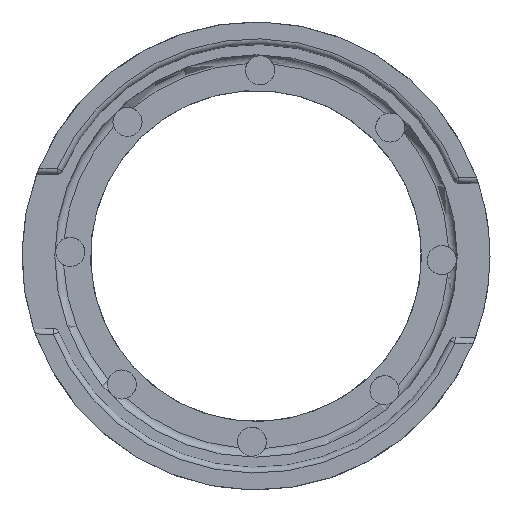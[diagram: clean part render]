
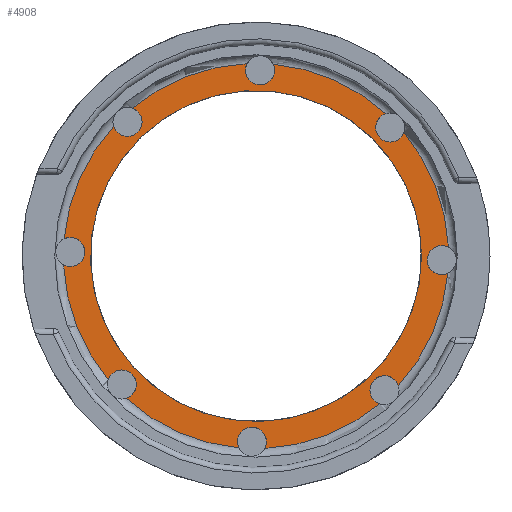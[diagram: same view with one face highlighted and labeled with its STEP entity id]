
A CAD part, top view. The second image highlights one B-rep face of the part: STEP entity #4908.
In plain terms, the highlighted planar face has unit normal (0, 0, 1).
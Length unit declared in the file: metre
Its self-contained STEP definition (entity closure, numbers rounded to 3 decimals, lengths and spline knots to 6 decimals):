
#678=CIRCLE('',#5308,0.03375);
#679=CIRCLE('',#5309,0.00255);
#680=CIRCLE('',#5310,0.03375);
#681=CIRCLE('',#5311,0.00255);
#682=CIRCLE('',#5312,0.03375);
#683=CIRCLE('',#5313,0.00255);
#684=CIRCLE('',#5314,0.03375);
#685=CIRCLE('',#5315,0.00255);
#686=CIRCLE('',#5316,0.03375);
#687=CIRCLE('',#5317,0.00255);
#688=CIRCLE('',#5318,0.03375);
#689=CIRCLE('',#5319,0.00255);
#690=CIRCLE('',#5320,0.03375);
#691=CIRCLE('',#5321,0.00255);
#692=CIRCLE('',#5322,0.03375);
#693=CIRCLE('',#5323,0.00255);
#694=CIRCLE('',#5324,0.029);
#1592=ORIENTED_EDGE('',*,*,#2906,.T.);
#1593=ORIENTED_EDGE('',*,*,#2907,.T.);
#1594=ORIENTED_EDGE('',*,*,#2908,.T.);
#1595=ORIENTED_EDGE('',*,*,#2909,.T.);
#1596=ORIENTED_EDGE('',*,*,#2910,.T.);
#1597=ORIENTED_EDGE('',*,*,#2911,.T.);
#1598=ORIENTED_EDGE('',*,*,#2912,.T.);
#1599=ORIENTED_EDGE('',*,*,#2913,.T.);
#1600=ORIENTED_EDGE('',*,*,#2914,.T.);
#1601=ORIENTED_EDGE('',*,*,#2915,.T.);
#1602=ORIENTED_EDGE('',*,*,#2916,.T.);
#1603=ORIENTED_EDGE('',*,*,#2917,.T.);
#1604=ORIENTED_EDGE('',*,*,#2918,.T.);
#1605=ORIENTED_EDGE('',*,*,#2919,.T.);
#1606=ORIENTED_EDGE('',*,*,#2920,.T.);
#1607=ORIENTED_EDGE('',*,*,#2921,.T.);
#1608=ORIENTED_EDGE('',*,*,#2922,.T.);
#2906=EDGE_CURVE('',#3482,#3483,#678,.F.);
#2907=EDGE_CURVE('',#3483,#3484,#679,.T.);
#2908=EDGE_CURVE('',#3484,#3485,#680,.F.);
#2909=EDGE_CURVE('',#3485,#3486,#681,.T.);
#2910=EDGE_CURVE('',#3486,#3487,#682,.F.);
#2911=EDGE_CURVE('',#3487,#3488,#683,.T.);
#2912=EDGE_CURVE('',#3488,#3489,#684,.F.);
#2913=EDGE_CURVE('',#3489,#3490,#685,.T.);
#2914=EDGE_CURVE('',#3490,#3491,#686,.F.);
#2915=EDGE_CURVE('',#3491,#3492,#687,.T.);
#2916=EDGE_CURVE('',#3492,#3493,#688,.F.);
#2917=EDGE_CURVE('',#3493,#3494,#689,.T.);
#2918=EDGE_CURVE('',#3494,#3495,#690,.F.);
#2919=EDGE_CURVE('',#3495,#3496,#691,.T.);
#2920=EDGE_CURVE('',#3496,#3497,#692,.F.);
#2921=EDGE_CURVE('',#3497,#3482,#693,.T.);
#2922=EDGE_CURVE('',#3498,#3498,#694,.T.);
#3482=VERTEX_POINT('',#11824);
#3483=VERTEX_POINT('',#11825);
#3484=VERTEX_POINT('',#11827);
#3485=VERTEX_POINT('',#11829);
#3486=VERTEX_POINT('',#11831);
#3487=VERTEX_POINT('',#11833);
#3488=VERTEX_POINT('',#11835);
#3489=VERTEX_POINT('',#11837);
#3490=VERTEX_POINT('',#11839);
#3491=VERTEX_POINT('',#11841);
#3492=VERTEX_POINT('',#11843);
#3493=VERTEX_POINT('',#11845);
#3494=VERTEX_POINT('',#11847);
#3495=VERTEX_POINT('',#11849);
#3496=VERTEX_POINT('',#11851);
#3497=VERTEX_POINT('',#11853);
#3498=VERTEX_POINT('',#11856);
#4097=EDGE_LOOP('',(#1592,#1593,#1594,#1595,#1596,#1597,#1598,#1599,#1600,
#1601,#1602,#1603,#1604,#1605,#1606,#1607));
#4098=EDGE_LOOP('',(#1608));
#4439=FACE_BOUND('',#4097,.T.);
#4440=FACE_BOUND('',#4098,.T.);
#4666=PLANE('',#5307);
#4908=ADVANCED_FACE('',(#4439,#4440),#4666,.F.);
#5307=AXIS2_PLACEMENT_3D('',#11822,#5934,#5935);
#5308=AXIS2_PLACEMENT_3D('',#11823,#5936,#5937);
#5309=AXIS2_PLACEMENT_3D('',#11826,#5938,#5939);
#5310=AXIS2_PLACEMENT_3D('',#11828,#5940,#5941);
#5311=AXIS2_PLACEMENT_3D('',#11830,#5942,#5943);
#5312=AXIS2_PLACEMENT_3D('',#11832,#5944,#5945);
#5313=AXIS2_PLACEMENT_3D('',#11834,#5946,#5947);
#5314=AXIS2_PLACEMENT_3D('',#11836,#5948,#5949);
#5315=AXIS2_PLACEMENT_3D('',#11838,#5950,#5951);
#5316=AXIS2_PLACEMENT_3D('',#11840,#5952,#5953);
#5317=AXIS2_PLACEMENT_3D('',#11842,#5954,#5955);
#5318=AXIS2_PLACEMENT_3D('',#11844,#5956,#5957);
#5319=AXIS2_PLACEMENT_3D('',#11846,#5958,#5959);
#5320=AXIS2_PLACEMENT_3D('',#11848,#5960,#5961);
#5321=AXIS2_PLACEMENT_3D('',#11850,#5962,#5963);
#5322=AXIS2_PLACEMENT_3D('',#11852,#5964,#5965);
#5323=AXIS2_PLACEMENT_3D('',#11854,#5966,#5967);
#5324=AXIS2_PLACEMENT_3D('',#11855,#5968,#5969);
#5934=DIRECTION('',(0.,0.,-1.));
#5935=DIRECTION('',(0.819,0.574,0.));
#5936=DIRECTION('',(0.,0.,-1.));
#5937=DIRECTION('',(1.,0.,0.));
#5938=DIRECTION('',(0.,0.,-1.));
#5939=DIRECTION('',(1.,0.,0.));
#5940=DIRECTION('',(0.,0.,-1.));
#5941=DIRECTION('',(1.,0.,0.));
#5942=DIRECTION('',(0.,0.,-1.));
#5943=DIRECTION('',(1.,0.,0.));
#5944=DIRECTION('',(0.,0.,-1.));
#5945=DIRECTION('',(1.,0.,0.));
#5946=DIRECTION('',(0.,0.,-1.));
#5947=DIRECTION('',(1.,0.,0.));
#5948=DIRECTION('',(0.,0.,-1.));
#5949=DIRECTION('',(1.,0.,0.));
#5950=DIRECTION('',(0.,0.,-1.));
#5951=DIRECTION('',(1.,0.,0.));
#5952=DIRECTION('',(0.,0.,-1.));
#5953=DIRECTION('',(1.,0.,0.));
#5954=DIRECTION('',(0.,0.,-1.));
#5955=DIRECTION('',(1.,0.,0.));
#5956=DIRECTION('',(0.,0.,-1.));
#5957=DIRECTION('',(1.,0.,0.));
#5958=DIRECTION('',(0.,0.,-1.));
#5959=DIRECTION('',(1.,0.,0.));
#5960=DIRECTION('',(0.,0.,-1.));
#5961=DIRECTION('',(1.,0.,0.));
#5962=DIRECTION('',(0.,0.,-1.));
#5963=DIRECTION('',(1.,0.,0.));
#5964=DIRECTION('',(0.,0.,-1.));
#5965=DIRECTION('',(1.,0.,0.));
#5966=DIRECTION('',(0.,0.,-1.));
#5967=DIRECTION('',(1.,0.,0.));
#5968=DIRECTION('',(0.,0.,-1.));
#5969=DIRECTION('',(1.,0.,0.));
#11822=CARTESIAN_POINT('',(0.,0.,0.0718));
#11823=CARTESIAN_POINT('',(0.,0.,0.0718));
#11824=CARTESIAN_POINT('',(-0.024942,0.022737,0.0718));
#11825=CARTESIAN_POINT('',(-0.033615,0.00302,0.0718));
#11826=CARTESIAN_POINT('',(-0.032542,0.000706,0.0718));
#11827=CARTESIAN_POINT('',(-0.033714,-0.001559,0.0718));
#11828=CARTESIAN_POINT('',(0.,0.,0.0718));
#11829=CARTESIAN_POINT('',(-0.025904,-0.021634,0.0718));
#11830=CARTESIAN_POINT('',(-0.02351,-0.022512,0.0718));
#11831=CARTESIAN_POINT('',(-0.022737,-0.024942,0.0718));
#11832=CARTESIAN_POINT('',(0.,0.,0.0718));
#11833=CARTESIAN_POINT('',(-0.00302,-0.033615,0.0718));
#11834=CARTESIAN_POINT('',(-0.000706,-0.032542,0.0718));
#11835=CARTESIAN_POINT('',(0.001559,-0.033714,0.0718));
#11836=CARTESIAN_POINT('',(0.,0.,0.0718));
#11837=CARTESIAN_POINT('',(0.021634,-0.025904,0.0718));
#11838=CARTESIAN_POINT('',(0.022512,-0.02351,0.0718));
#11839=CARTESIAN_POINT('',(0.024942,-0.022737,0.0718));
#11840=CARTESIAN_POINT('',(0.,0.,0.0718));
#11841=CARTESIAN_POINT('',(0.033615,-0.00302,0.0718));
#11842=CARTESIAN_POINT('',(0.032542,-0.000706,0.0718));
#11843=CARTESIAN_POINT('',(0.033714,0.001559,0.0718));
#11844=CARTESIAN_POINT('',(0.,0.,0.0718));
#11845=CARTESIAN_POINT('',(0.025904,0.021634,0.0718));
#11846=CARTESIAN_POINT('',(0.02351,0.022512,0.0718));
#11847=CARTESIAN_POINT('',(0.022737,0.024942,0.0718));
#11848=CARTESIAN_POINT('',(0.,0.,0.0718));
#11849=CARTESIAN_POINT('',(0.00302,0.033615,0.0718));
#11850=CARTESIAN_POINT('',(0.000706,0.032542,0.0718));
#11851=CARTESIAN_POINT('',(-0.001559,0.033714,0.0718));
#11852=CARTESIAN_POINT('',(0.,0.,0.0718));
#11853=CARTESIAN_POINT('',(-0.021634,0.025904,0.0718));
#11854=CARTESIAN_POINT('',(-0.022512,0.02351,0.0718));
#11855=CARTESIAN_POINT('',(0.,0.,0.0718));
#11856=CARTESIAN_POINT('',(0.029,0.,0.0718));
